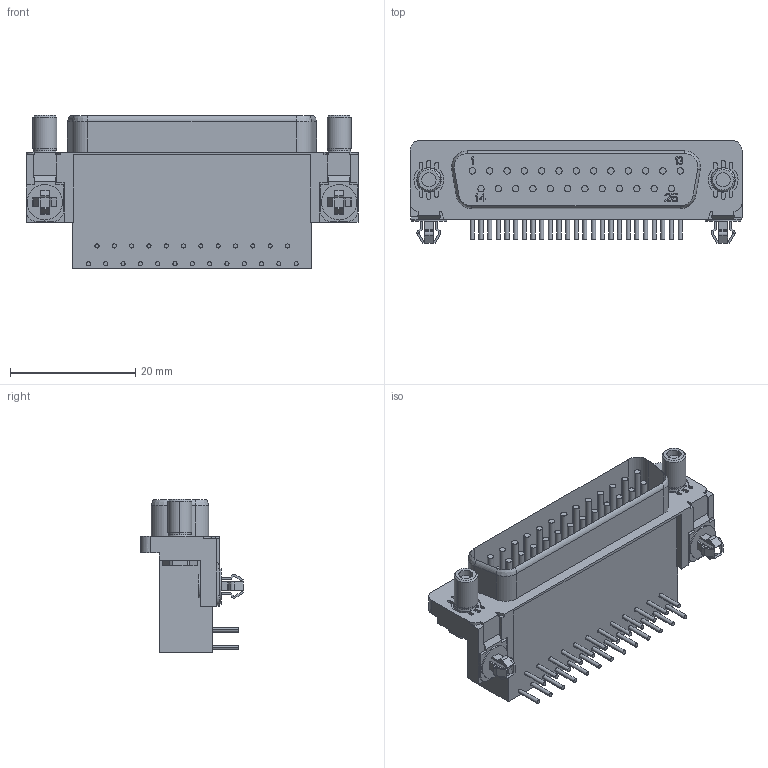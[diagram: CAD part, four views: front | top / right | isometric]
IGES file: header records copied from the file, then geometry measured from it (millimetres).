
Start section:  PTC IGES file: c-5747834-6-c-3d.igs
Global section: file name: c-5747834-6-c-3d.igs; native system: Pro/ENGINEER by Parametric Technology Corporation; preprocessor: 2010430; author: workeradm; organization: Unknown; units: millimetre
Bounding box: 53.09 x 16.42 x 24.49 mm (x, y, z)
Surface area: 5659.4 mm2 (no closed solid volume)
Topology: 0 solids, 0 shells, 753 faces, 3880 edges, 3880 vertices
Faces by surface type: bspline 475, revolution 278
